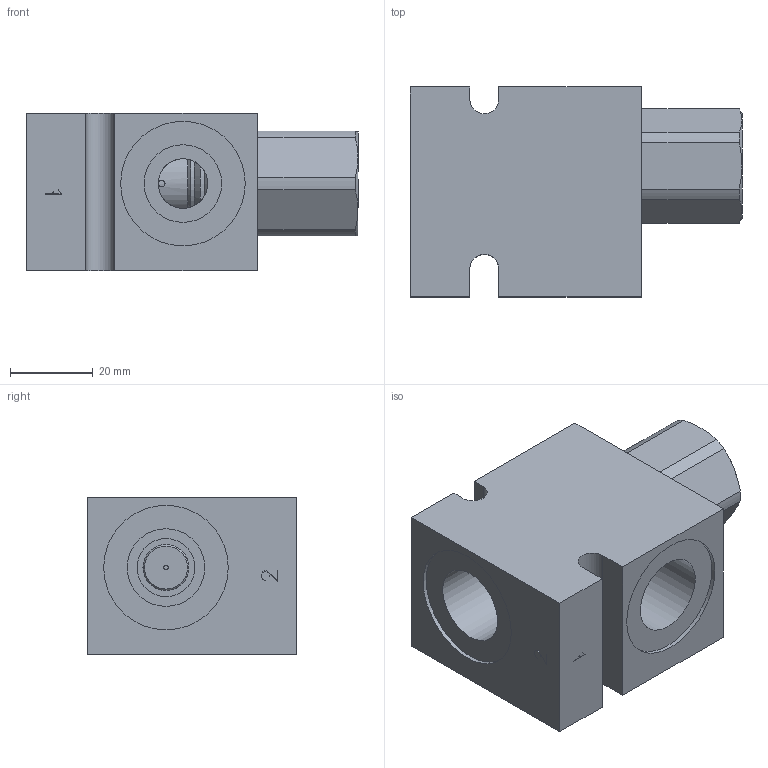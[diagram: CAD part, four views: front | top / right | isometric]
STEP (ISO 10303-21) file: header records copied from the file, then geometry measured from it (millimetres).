
FILE_DESCRIPTION( ( 'Unknown' ), '1' );
FILE_NAME( 'G:/Graphic Design/Graphic Design 2/Data Sheets/FLOW CONTROLS/2_STEP/Pressure Compensated Flow Regulator Valves/D-DEFCF00-C2.stp', 'Unknown', ( 'Unknown' ), ( 'Unknown' ), 'PSStep 16.0.42', 'Unknown', ' ' );
FILE_SCHEMA( ( 'AUTOMOTIVE_DESIGN { 1 0 10303 214 1 1 1 1 }' ) );
Length unit declared in the file: millimetre
Products named in the file (7): DEFCF00; DEFCF00-3D Full1; DEFCF00-3D Full2; DEFCF00-3D Full3; DEFCF00-3D Full4; Assem1; B-DDEC2
Assembly tree (6 placements, depth 3):
  Assem1
    B-DDEC2
    DEFCF00
      DEFCF00-3D Full1
      DEFCF00-3D Full2
      DEFCF00-3D Full3
      DEFCF00-3D Full4
Bounding box: 80.4 x 50.8 x 38.1 mm (x, y, z)
Surface area: 26027.3 mm2 (no closed solid volume)
Topology: 0 solids, 172 shells, 172 faces, 711 edges, 641 vertices
Faces by surface type: plane 84, cylinder 50, cone 33, torus 5
Full cylindrical faces by diameter (mm): 0.2 x2, 1.092 x1, 1.575 x8, 10.414 x4, 11.12 x5, 11.14 x1, 12 x1, 12.7 x1, 12.992 x1, 13.043 x1, 14 x1, 15.735 x1, 15.761 x2, 15.9 x1, 17.043 x1, 17.323 x1, 18.8 x4, 19.609 x1, 20.262 x2, 30.17 x2, 30.175 x1
Entity records: 9006 total; most frequent: CARTESIAN_POINT 2638, DIRECTION 970, VERTEX_POINT 620, ORIENTED_EDGE 618, EDGE_CURVE 618, AXIS2_PLACEMENT_3D 404, FACE_BOUND 284, EDGE_LOOP 282
